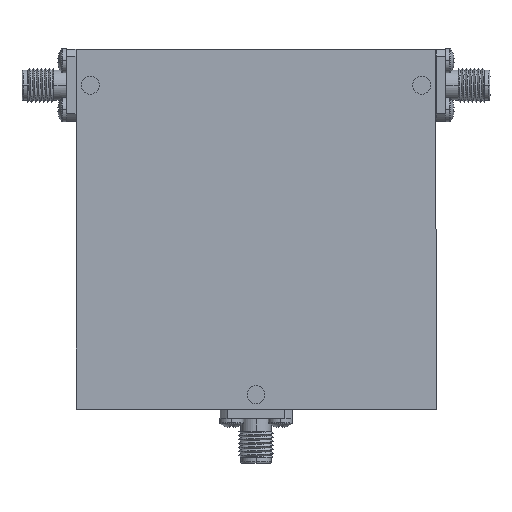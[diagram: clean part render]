
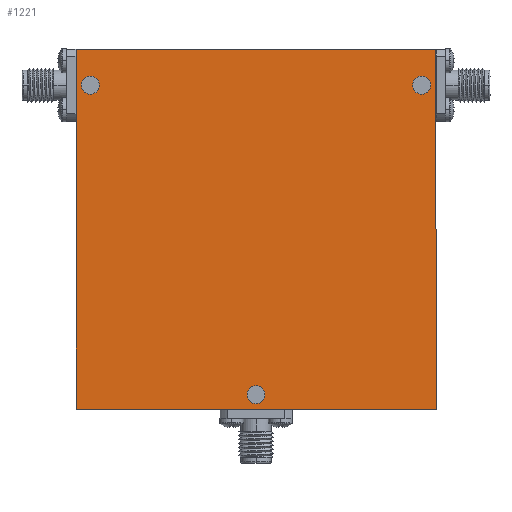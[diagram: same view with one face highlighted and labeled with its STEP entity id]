
A CAD part, top view. The second image highlights one B-rep face of the part: STEP entity #1221.
In plain terms, the highlighted planar face has unit normal (0, 0, 1).
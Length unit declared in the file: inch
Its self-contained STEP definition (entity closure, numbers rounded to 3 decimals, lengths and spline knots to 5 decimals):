
#162 = DIRECTION ( 'NONE',  ( 1., 0., 0. ) ) ;
#248 = AXIS2_PLACEMENT_3D ( 'NONE', #2480, #3315, #1344 ) ;
#250 = CARTESIAN_POINT ( 'NONE',  ( 1.25, -1.25, 0.365 ) ) ;
#254 = VERTEX_POINT ( 'NONE', #250 ) ;
#256 = CARTESIAN_POINT ( 'NONE',  ( 1.0875, 1., 0.365 ) ) ;
#263 = LINE ( 'NONE', #1785, #2441 ) ;
#274 = CIRCLE ( 'NONE', #1160, 0.0625 ) ;
#312 = FACE_BOUND ( 'NONE', #3207, .T. ) ;
#351 = CARTESIAN_POINT ( 'NONE',  ( 0., 0., 0.365 ) ) ;
#384 = DIRECTION ( 'NONE',  ( 1., 0., 0. ) ) ;
#427 = CARTESIAN_POINT ( 'NONE',  ( 0., -1.15, 0.365 ) ) ;
#457 = CARTESIAN_POINT ( 'NONE',  ( -1.0875, 1., 0.365 ) ) ;
#466 = DIRECTION ( 'NONE',  ( 1., 0., 0. ) ) ;
#469 = ORIENTED_EDGE ( 'NONE', *, *, #1481, .F. ) ;
#470 = EDGE_CURVE ( 'NONE', #822, #1215, #2276, .T. ) ;
#610 = AXIS2_PLACEMENT_3D ( 'NONE', #1578, #2457, #2708 ) ;
#621 = EDGE_LOOP ( 'NONE', ( #742, #2251, #3176, #1346 ) ) ;
#670 = LINE ( 'NONE', #812, #3709 ) ;
#742 = ORIENTED_EDGE ( 'NONE', *, *, #1214, .T. ) ;
#777 = CARTESIAN_POINT ( 'NONE',  ( -1.25, -1.25, 0.365 ) ) ;
#812 = CARTESIAN_POINT ( 'NONE',  ( -1.25, 1.25, 0.365 ) ) ;
#822 = VERTEX_POINT ( 'NONE', #256 ) ;
#965 = ORIENTED_EDGE ( 'NONE', *, *, #2579, .F. ) ;
#966 = EDGE_CURVE ( 'NONE', #1168, #3392, #670, .T. ) ;
#984 = VERTEX_POINT ( 'NONE', #2059 ) ;
#1036 = CIRCLE ( 'NONE', #1222, 0.0625 ) ;
#1056 = VERTEX_POINT ( 'NONE', #2645 ) ;
#1141 = CIRCLE ( 'NONE', #1561, 0.0625 ) ;
#1160 = AXIS2_PLACEMENT_3D ( 'NONE', #3681, #2143, #162 ) ;
#1168 = VERTEX_POINT ( 'NONE', #2969 ) ;
#1214 = EDGE_CURVE ( 'NONE', #254, #1168, #263, .T. ) ;
#1215 = VERTEX_POINT ( 'NONE', #2415 ) ;
#1221 = ADVANCED_FACE ( 'NONE', ( #312, #3145, #2684, #2911 ), #1243, .T. ) ;
#1222 = AXIS2_PLACEMENT_3D ( 'NONE', #3085, #1640, #466 ) ;
#1243 = PLANE ( 'NONE',  #1419 ) ;
#1265 = CARTESIAN_POINT ( 'NONE',  ( -1.25, 1.25, 0.365 ) ) ;
#1312 = EDGE_CURVE ( 'NONE', #3392, #1728, #1365, .T. ) ;
#1320 = AXIS2_PLACEMENT_3D ( 'NONE', #427, #2800, #3082 ) ;
#1344 = DIRECTION ( 'NONE',  ( 1., 0., 0. ) ) ;
#1346 = ORIENTED_EDGE ( 'NONE', *, *, #2703, .T. ) ;
#1365 = LINE ( 'NONE', #1265, #2724 ) ;
#1373 = DIRECTION ( 'NONE',  ( 1., 0., 0. ) ) ;
#1419 = AXIS2_PLACEMENT_3D ( 'NONE', #351, #2081, #384 ) ;
#1481 = EDGE_CURVE ( 'NONE', #1056, #2534, #1036, .T. ) ;
#1561 = AXIS2_PLACEMENT_3D ( 'NONE', #1850, #2109, #3278 ) ;
#1578 = CARTESIAN_POINT ( 'NONE',  ( 1.15, 1., 0.365 ) ) ;
#1620 = EDGE_CURVE ( 'NONE', #2162, #984, #1998, .T. ) ;
#1640 = DIRECTION ( 'NONE',  ( 0., 0., 1. ) ) ;
#1728 = VERTEX_POINT ( 'NONE', #777 ) ;
#1785 = CARTESIAN_POINT ( 'NONE',  ( 1.25, 1.25, 0.365 ) ) ;
#1789 = CARTESIAN_POINT ( 'NONE',  ( 0.0625, -1.15, 0.365 ) ) ;
#1797 = DIRECTION ( 'NONE',  ( 0., 1., 0. ) ) ;
#1849 = ORIENTED_EDGE ( 'NONE', *, *, #1620, .F. ) ;
#1850 = CARTESIAN_POINT ( 'NONE',  ( 0., -1.15, 0.365 ) ) ;
#1893 = DIRECTION ( 'NONE',  ( 0., -1., 0. ) ) ;
#1968 = CARTESIAN_POINT ( 'NONE',  ( -1.25, -1.25, 0.365 ) ) ;
#1998 = CIRCLE ( 'NONE', #1320, 0.0625 ) ;
#2059 = CARTESIAN_POINT ( 'NONE',  ( -0.0625, -1.15, 0.365 ) ) ;
#2081 = DIRECTION ( 'NONE',  ( 0., 0., 1. ) ) ;
#2109 = DIRECTION ( 'NONE',  ( 0., 0., 1. ) ) ;
#2143 = DIRECTION ( 'NONE',  ( 0., 0., 1. ) ) ;
#2162 = VERTEX_POINT ( 'NONE', #1789 ) ;
#2231 = EDGE_CURVE ( 'NONE', #984, #2162, #1141, .T. ) ;
#2235 = EDGE_LOOP ( 'NONE', ( #1849, #3175 ) ) ;
#2251 = ORIENTED_EDGE ( 'NONE', *, *, #966, .T. ) ;
#2258 = ORIENTED_EDGE ( 'NONE', *, *, #2495, .F. ) ;
#2268 = DIRECTION ( 'NONE',  ( -1., 0., 0. ) ) ;
#2276 = CIRCLE ( 'NONE', #610, 0.0625 ) ;
#2292 = ORIENTED_EDGE ( 'NONE', *, *, #470, .F. ) ;
#2415 = CARTESIAN_POINT ( 'NONE',  ( 1.2125, 1., 0.365 ) ) ;
#2441 = VECTOR ( 'NONE', #1797, 39.37008 ) ;
#2457 = DIRECTION ( 'NONE',  ( 0., 0., 1. ) ) ;
#2480 = CARTESIAN_POINT ( 'NONE',  ( -1.15, 1., 0.365 ) ) ;
#2495 = EDGE_CURVE ( 'NONE', #1215, #822, #274, .T. ) ;
#2534 = VERTEX_POINT ( 'NONE', #457 ) ;
#2556 = LINE ( 'NONE', #1968, #3528 ) ;
#2579 = EDGE_CURVE ( 'NONE', #2534, #1056, #2694, .T. ) ;
#2645 = CARTESIAN_POINT ( 'NONE',  ( -1.2125, 1., 0.365 ) ) ;
#2684 = FACE_BOUND ( 'NONE', #3631, .T. ) ;
#2694 = CIRCLE ( 'NONE', #248, 0.0625 ) ;
#2703 = EDGE_CURVE ( 'NONE', #1728, #254, #2556, .T. ) ;
#2705 = CARTESIAN_POINT ( 'NONE',  ( -1.25, 1.25, 0.365 ) ) ;
#2708 = DIRECTION ( 'NONE',  ( 1., 0., 0. ) ) ;
#2724 = VECTOR ( 'NONE', #1893, 39.37008 ) ;
#2800 = DIRECTION ( 'NONE',  ( 0., 0., 1. ) ) ;
#2911 = FACE_OUTER_BOUND ( 'NONE', #621, .T. ) ;
#2969 = CARTESIAN_POINT ( 'NONE',  ( 1.25, 1.25, 0.365 ) ) ;
#3082 = DIRECTION ( 'NONE',  ( 1., 0., 0. ) ) ;
#3085 = CARTESIAN_POINT ( 'NONE',  ( -1.15, 1., 0.365 ) ) ;
#3145 = FACE_BOUND ( 'NONE', #2235, .T. ) ;
#3175 = ORIENTED_EDGE ( 'NONE', *, *, #2231, .F. ) ;
#3176 = ORIENTED_EDGE ( 'NONE', *, *, #1312, .T. ) ;
#3207 = EDGE_LOOP ( 'NONE', ( #2258, #2292 ) ) ;
#3278 = DIRECTION ( 'NONE',  ( 1., 0., 0. ) ) ;
#3315 = DIRECTION ( 'NONE',  ( 0., 0., 1. ) ) ;
#3392 = VERTEX_POINT ( 'NONE', #2705 ) ;
#3528 = VECTOR ( 'NONE', #1373, 39.37008 ) ;
#3631 = EDGE_LOOP ( 'NONE', ( #965, #469 ) ) ;
#3681 = CARTESIAN_POINT ( 'NONE',  ( 1.15, 1., 0.365 ) ) ;
#3709 = VECTOR ( 'NONE', #2268, 39.37008 ) ;
